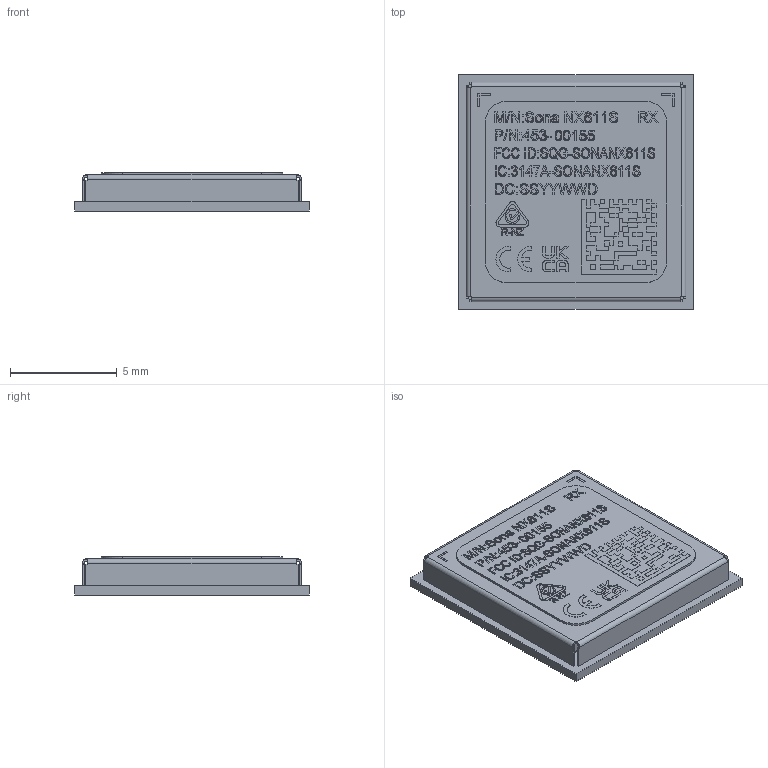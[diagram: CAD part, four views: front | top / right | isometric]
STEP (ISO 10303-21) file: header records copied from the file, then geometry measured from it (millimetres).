
FILE_DESCRIPTION (( 'STEP AP214' ), '1' );
FILE_NAME ('453-00155.STEP', '2026-05-25T10:24:23', ( '' ), ( '' ), 'SwSTEP 2.0', 'SolidWorks 2025', '' );
FILE_SCHEMA (( 'AUTOMOTIVE_DESIGN' ));
Length unit declared in the file: millimetre
Products named in the file (5): 453-00155; 110-00820; 940-00272; 160-02403_453-00155
Assembly tree (4 placements, depth 3):
  453-00155
    940-00272
      940-00272
      110-00820
    160-02403_453-00155
Bounding box: 11 x 11 x 1.8 mm (x, y, z)
Volume: 21.9 mm3; surface area: 871.6 mm2
Topology: 2 solids, 235 shells, 3981 faces, 9837 edges, 6317 vertices
Faces by surface type: plane 2795, bspline 532, cylinder 494, sphere 160
Entity records: 176625 total; most frequent: CARTESIAN_POINT 51779, ORIENTED_EDGE 18879, DIRECTION 15501, EDGE_CURVE 9677, LINE 6753, VECTOR 6753, VERTEX_POINT 6317, AXIS2_PLACEMENT_3D 4374
